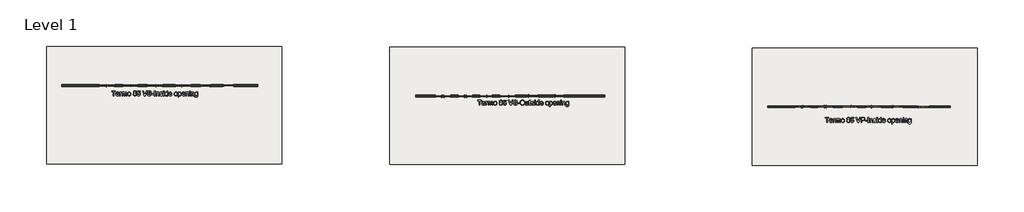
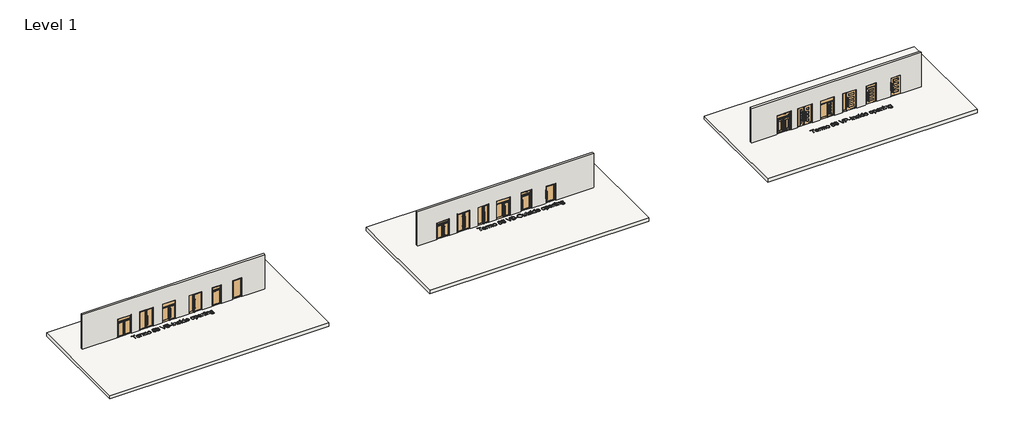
# One storey: 18 doors, 3 proxies, 3 slabs, 3 walls.
"""IFC4 building model written with IfcOpenShell, lengths in millimetres."""

from ifc_helpers import new_model, si_unit, frame, origin, place, context, project, spatial, polyline, outline, extrude, faceted_brep, transform, mapped, element, save
from components import tekst_tekst_b85554be, tekst_tekst_2_988a86f3, tekst_tekst_3_45cd4cb1, door_e021cbc1, door_ad640c1f, door_369b09e6, door_937ee947, door_72423dee, door_cfd425c1, door_9ea68863, door_db977d84, door_2316798d, door_7b687b59, door_7fb9f7a2, door_1983d042, door_8541cdd4, door_6dbeb30b, door_d72a60e1, door_61d21fcc, door_963cac1d, door_2957b7f0, door_72d245ee, door_0c907331, door_779a9718, door_73f70f86

model = new_model("IFC4")

# Units and contexts
model_context = context("Model", 3, world=origin())
ifc_project = project(units=[si_unit("LENGTHUNIT", "METRE", prefix="MILLI")], contexts=[model_context])

# Site, building, storey
site = spatial("IfcSite", under=ifc_project)
building = spatial("IfcBuilding", under=site)
storey = spatial("IfcBuildingStorey", under=building, Name="Level 1", Elevation=0.0)

# Proxies
placement = place(None, origin())
tekst_tekst_shape = tekst_tekst_b85554be(model_context)
element("IfcBuildingElementProxy", 1, Name="tekst : tekst", ObjectType="tekst : tekst", at=placement, inside=storey, context=model_context, shape_type="MappedRepresentation", body=[
    mapped(tekst_tekst_shape, transform((3584.8028535, 9743.7051567, 0.0), x_axis=(1.0, 0.0, 0.0), y_axis=(0.0, 1.0, 0.0), z_axis=(0.0, 0.0, 1.0))),
])
tekst_tekst_2_shape = tekst_tekst_2_988a86f3(model_context)
element("IfcBuildingElementProxy", 2, Name="tekst : tekst 2", ObjectType="tekst : tekst 2", at=placement, inside=storey, context=model_context, shape_type="MappedRepresentation", body=[
    mapped(tekst_tekst_2_shape, transform((40927.726099, 8792.6004717, 0.0), x_axis=(1.0, 0.0, 0.0), y_axis=(0.0, 1.0, 0.0), z_axis=(0.0, 0.0, 1.0))),
])
tekst_tekst_3_shape = tekst_tekst_3_45cd4cb1(model_context)
element("IfcBuildingElementProxy", 3, Name="tekst : tekst 3", ObjectType="tekst : tekst 3", at=placement, inside=storey, context=model_context, shape_type="MappedRepresentation", body=[
    mapped(tekst_tekst_3_shape, transform((76392.8381824, 7027.7348186, 0.0), x_axis=(1.0000000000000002, 0.0, 0.0), y_axis=(0.0, 1.0000000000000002, 0.0), z_axis=(0.0, 0.0, 1.0))),
])

# Doors
door_shape = door_e021cbc1(model_context)
element("IfcDoor", 4, ObjectType="Jednokrilna vrata__ : Jednokrilna vrata__", at=placement, inside=storey, context=model_context, shape_type="MappedRepresentation", body=[
    mapped(door_shape, transform((14120.9288805, 10796.5913339, 0.0), x_axis=(1.0, 0.0, 0.0), y_axis=(0.0, 1.0, 0.0), z_axis=(0.0, 0.0, 1.0))),
])
door_2_shape = door_ad640c1f(model_context)
element("IfcDoor", 5, ObjectType="Jednokrilna s ventusom : Jednokrilna s ventusom", at=placement, inside=storey, context=model_context, shape_type="MappedRepresentation", body=[
    mapped(door_2_shape, transform((11820.9288805, 10796.5913339, 0.0), x_axis=(-1.0, 0.0, 0.0), y_axis=(0.0, -1.0, 0.0), z_axis=(0.0, 0.0, 1.0))),
])
door_3_shape = door_369b09e6(model_context)
element("IfcDoor", 6, ObjectType="Jednokrilna vrata s fiksnim poljem__ : Jednokrilna vrata s fiksnim poljem__", at=placement, inside=storey, context=model_context, shape_type="MappedRepresentation", body=[
    mapped(door_3_shape, transform((9520.9288805, 10796.5913339, 0.0), x_axis=(1.0, 0.0, 0.0), y_axis=(0.0, 1.0, 0.0), z_axis=(0.0, 0.0, 1.0))),
])
door_4_shape = door_937ee947(model_context)
element("IfcDoor", 7, ObjectType="Vrata s nadsvjetlom i fiksnim dijelom : Vrata s nadsvjetlom i fiksnim dijelom", at=placement, inside=storey, context=model_context, shape_type="MappedRepresentation", body=[
    mapped(door_4_shape, transform((6620.9288805, 10796.5913339, 0.0), x_axis=(1.0, 0.0, 0.0), y_axis=(0.0, 1.0, 0.0), z_axis=(0.0, 0.0, 1.0))),
])
door_5_shape = door_72423dee(model_context)
element("IfcDoor", 8, ObjectType="Dvokrilna vrata__ : Dvokrilna vrata__", at=placement, inside=storey, context=model_context, shape_type="MappedRepresentation", body=[
    mapped(door_5_shape, transform((4120.9288805, 10796.5913339, 0.0), x_axis=(-1.0, 0.0, 0.0), y_axis=(0.0, -1.0, 0.0), z_axis=(0.0, 0.0, 1.0))),
])
door_6_shape = door_cfd425c1(model_context)
door_7_shape = door_9ea68863(model_context)
element("IfcDoor", 9, ObjectType="Dvokrilna vrata s ventusom__ : Dvokrilna vrata s ventusom__", at=placement, inside=storey, context=model_context, shape_type="MappedRepresentation", body=[
    mapped(door_6_shape, transform((1720.9288805, 10796.5913339, 0.0), x_axis=(-1.0, 0.0, 0.0), y_axis=(0.0, -1.0, 0.0), z_axis=(0.0, 0.0, 1.0))),
    mapped(door_7_shape, transform((1720.9288805, 10796.5913339, 0.0), x_axis=(-1.0, 0.0, 0.0), y_axis=(0.0, -1.0, 0.0), z_axis=(0.0, 0.0, 1.0))),
])
door_8_shape = door_db977d84(model_context)
element("IfcDoor", 10, ObjectType="Jednokrilna vrata : Jednokrilna vrata", at=placement, inside=storey, context=model_context, shape_type="MappedRepresentation", body=[
    mapped(door_8_shape, transform((85028.945923, 8627.7348186, 0.0), x_axis=(1.0, 0.0, 0.0), y_axis=(0.0, 1.0, 0.0), z_axis=(0.0, 0.0, 1.0))),
])
door_9_shape = door_2316798d(model_context)
element("IfcDoor", 11, ObjectType="Jednokrilna vrata s nadsvijetlom : Jednokrilna vrata s nadsvijetlom", at=placement, inside=storey, context=model_context, shape_type="MappedRepresentation", body=[
    mapped(door_9_shape, transform((82348.945923, 8627.7348186, 0.0), x_axis=(1.0, 0.0, 0.0), y_axis=(0.0, 1.0, 0.0), z_axis=(0.0, 0.0, 1.0))),
])
door_10_shape = door_7b687b59(model_context)
element("IfcDoor", 12, ObjectType="Jednokrilna vrata s fiksnim poljem i nadsvijetlom : Jednokrilna vrata s fiksnim poljem i nadsvijetlom", at=placement, inside=storey, context=model_context, shape_type="MappedRepresentation", body=[
    mapped(door_10_shape, transform((77548.945923, 8627.7348186, 0.0), x_axis=(1.0, 0.0, 0.0), y_axis=(0.0, 1.0, 0.0), z_axis=(0.0, 0.0, 1.0))),
])
door_11_shape = door_7fb9f7a2(model_context)
door_12_shape = door_1983d042(model_context)
element("IfcDoor", 13, ObjectType="Dvokrilna vrata : Dvokrilna vrata", at=placement, inside=storey, context=model_context, shape_type="MappedRepresentation", body=[
    mapped(door_11_shape, transform((75048.945923, 8627.7348186, 0.0), x_axis=(1.0, 0.0, 0.0), y_axis=(0.0, 1.0, 0.0), z_axis=(0.0, 0.0, 1.0))),
    mapped(door_12_shape, transform((75048.945923, 8627.7348186, 0.0), x_axis=(1.0, 0.0, 0.0), y_axis=(0.0, 1.0, 0.0), z_axis=(0.0, 0.0, 1.0))),
])
door_13_shape = door_8541cdd4(model_context)
door_14_shape = door_6dbeb30b(model_context)
element("IfcDoor", 14, ObjectType="Dvokrilna vrata s ventusom : Dvokrilna vrata s ventusom", at=placement, inside=storey, context=model_context, shape_type="MappedRepresentation", body=[
    mapped(door_13_shape, transform((72748.945923, 8627.7348186, 0.0), x_axis=(1.0, 0.0, 0.0), y_axis=(0.0, 1.0, 0.0), z_axis=(0.0, 0.0, 1.0))),
    mapped(door_14_shape, transform((72748.945923, 8627.7348186, 0.0), x_axis=(1.0, 0.0, 0.0), y_axis=(0.0, 1.0, 0.0), z_axis=(0.0, 0.0, 1.0))),
])
door_15_shape = door_d72a60e1(model_context)
element("IfcDoor", 15, ObjectType="Jednokrilna vrata_ : Jednokrilna vrata_", at=placement, inside=storey, context=model_context, shape_type="MappedRepresentation", body=[
    mapped(door_15_shape, transform((47820.9288805, 9708.5752204, 0.0), x_axis=(1.0, 0.0, 0.0), y_axis=(0.0, 1.0, 0.0), z_axis=(0.0, 0.0, 1.0))),
])
door_16_shape = door_61d21fcc(model_context)
element("IfcDoor", 16, ObjectType="Jednokrilna vrata s ventusom : Jednokrilna vrata s ventusom", at=placement, inside=storey, context=model_context, shape_type="MappedRepresentation", body=[
    mapped(door_16_shape, transform((45120.9288805, 9708.5752204, 0.0), x_axis=(1.0, 0.0, 0.0), y_axis=(0.0, 1.0, 0.0), z_axis=(0.0, 0.0, 1.0))),
])
door_17_shape = door_963cac1d(model_context)
element("IfcDoor", 17, ObjectType="jednokrilna vrata s fixnim poljem i nadsvijetlom : jednokrilna vrata s fixnim poljem i nadsvijetlom", at=placement, inside=storey, context=model_context, shape_type="MappedRepresentation", body=[
    mapped(door_17_shape, transform((42620.9288805, 9708.5752204, 0.0), x_axis=(1.0, 0.0, 0.0), y_axis=(0.0, 1.0, 0.0), z_axis=(0.0, 0.0, 1.0))),
])
door_18_shape = door_2957b7f0(model_context)
element("IfcDoor", 18, ObjectType="Jednokrilna vrata s fiksnim poljem_ : Jednokrilna vrata s fiksnim poljem_", at=placement, inside=storey, context=model_context, shape_type="MappedRepresentation", body=[
    mapped(door_18_shape, transform((40420.9288805, 9708.5752204, 0.0), x_axis=(1.0, 0.0, 0.0), y_axis=(0.0, 1.0, 0.0), z_axis=(0.0, 0.0, 1.0))),
])
door_19_shape = door_72d245ee(model_context)
element("IfcDoor", 19, ObjectType="Dvokrilna vrata_ : Dvokrilna vrata_", at=placement, inside=storey, context=model_context, shape_type="MappedRepresentation", body=[
    mapped(door_19_shape, transform((38320.9288805, 9708.5752204, 0.0), x_axis=(-1.0, 0.0, 0.0), y_axis=(0.0, -1.0, 0.0), z_axis=(0.0, 0.0, 1.0))),
])
door_20_shape = door_0c907331(model_context)
door_21_shape = door_779a9718(model_context)
element("IfcDoor", 20, ObjectType="Dvokrilna vrata s ventusom_ : Dvokrilna vrata s ventusom_", at=placement, inside=storey, context=model_context, shape_type="MappedRepresentation", body=[
    mapped(door_20_shape, transform((36020.9288805, 9708.5752204, 0.0), x_axis=(-1.0, 0.0, 0.0), y_axis=(0.0, -1.0, 0.0), z_axis=(0.0, 0.0, 1.0))),
    mapped(door_21_shape, transform((36020.9288805, 9708.5752204, 0.0), x_axis=(-1.0, 0.0, 0.0), y_axis=(0.0, -1.0, 0.0), z_axis=(0.0, 0.0, 1.0))),
])
door_22_shape = door_73f70f86(model_context)
element("IfcDoor", 21, ObjectType="Jednokrilna vrata s fiksnim poljem : staklo", at=placement, inside=storey, context=model_context, shape_type="MappedRepresentation", body=[
    mapped(door_22_shape, transform((79948.945923, 8627.7348186, 0.0), x_axis=(1.0, 0.0, 0.0), y_axis=(0.0, 1.0, 0.0), z_axis=(0.0, 0.0, 1.0))),
])

# Slabs
element("IfcSlab", 22, ObjectType="Generic Floor - 400mm", at=placement, inside=storey, context=model_context, shape_type="SweptSolid", body=[
    extrude(outline(polyline([(54565.8940653, 14708.5752204), (54565.8940653, 2708.5752204), (30565.8940653, 2708.5752204), (30565.8940653, 14708.5752204), (54565.8940653, 14708.5752204)])), frame((0.0, 0.0, -400.0), z_axis=(0.0, 0.0, 1.0), x_axis=(1.0, 0.0, 0.0)), (0.0, 0.0, 1.0), 400.0),
])
element("IfcSlab", 23, ObjectType="Generic Floor - 400mm", at=placement, inside=storey, context=model_context, shape_type="SweptSolid", body=[
    extrude(outline(polyline([(90565.8940653, 14627.7348186), (90565.8940653, 2627.7348186), (67565.8940653, 2627.7348186), (67565.8940653, 14627.7348186), (90565.8940653, 14627.7348186)])), frame((0.0, 0.0, -400.0), z_axis=(0.0, 0.0, 1.0), x_axis=(1.0, 0.0, 0.0)), (0.0, 0.0, 1.0), 400.0),
])
element("IfcSlab", 24, ObjectType="Generic Floor - 400mm", at=placement, inside=storey, context=model_context, shape_type="SweptSolid", body=[
    extrude(outline(polyline([(19565.8940653, 14796.5913339), (19565.8940653, 2796.5913339), (-4434.1059347, 2796.5913339), (-4434.1059347, 14796.5913339), (19565.8940653, 14796.5913339)])), frame((0.0, 0.0, -400.0), z_axis=(0.0, 0.0, 1.0), x_axis=(1.0, 0.0, 0.0)), (0.0, 0.0, 1.0), 400.0),
])

# Walls
element("IfcWall", 25, ObjectType="Generic - 200mm", at=placement, inside=storey, context=model_context, shape_type="Brep", body=[
    faceted_brep([(33220.9288805, 9808.5752204, 0.0), (33220.9288805, 9808.5752204, 4000.0), (52520.9288805, 9808.5752204, 4000.0), (52520.9288805, 9808.5752204, 0.0), (48330.9288805, 9808.5752204, 0.0), (48330.9288805, 9808.5752204, 1960.0), (47310.9288805, 9808.5752204, 1960.0), (47310.9288805, 9808.5752204, 0.0), (45680.9288805, 9808.5752204, 0.0), (45680.9288805, 9808.5752204, 2160.0), (44560.9288805, 9808.5752204, 2160.0), (44560.9288805, 9808.5752204, 0.0), (43420.9288805, 9808.5752204, 0.0), (43420.9288805, 9808.5752204, 2200.0), (41820.9288805, 9808.5752204, 2200.0), (41820.9288805, 9808.5752204, 0.0), (41070.9288805, 9808.5752204, 0.0), (41070.9288805, 9808.5752204, 2200.0), (39770.9288805, 9808.5752204, 2200.0), (39770.9288805, 9808.5752204, 0.0), (39070.9288805, 9808.5752204, 0.0), (39070.9288805, 9808.5752204, 2200.0), (37570.9288805, 9808.5752204, 2200.0), (37570.9288805, 9808.5752204, 0.0), (36820.9288805, 9808.5752204, 0.0), (36820.9288805, 9808.5752204, 2000.0), (35220.9288805, 9808.5752204, 2000.0), (35220.9288805, 9808.5752204, 0.0), (33220.9288805, 9608.5752204, 4000.0), (33220.9288805, 9608.5752204, 0.0), (35260.9288805, 9608.5752204, 0.0), (35260.9288805, 9608.5752204, 1960.0), (36780.9288805, 9608.5752204, 1960.0), (36780.9288805, 9608.5752204, 0.0), (37610.9288805, 9608.5752204, 0.0), (37610.9288805, 9608.5752204, 2160.0), (39030.9288805, 9608.5752204, 2160.0), (39030.9288805, 9608.5752204, 0.0), (39810.9288805, 9608.5752204, 0.0), (39810.9288805, 9608.5752204, 2160.0), (41030.9288805, 9608.5752204, 2160.0), (41030.9288805, 9608.5752204, 0.0), (41860.9288805, 9608.5752204, 0.0), (41860.9288805, 9608.5752204, 2160.0), (43380.9288805, 9608.5752204, 2160.0), (43380.9288805, 9608.5752204, 0.0), (44520.9288805, 9608.5752204, 0.0), (44520.9288805, 9608.5752204, 2200.0), (45720.9288805, 9608.5752204, 2200.0), (45720.9288805, 9608.5752204, 0.0), (47270.9288805, 9608.5752204, 0.0), (47270.9288805, 9608.5752204, 2000.0), (48370.9288805, 9608.5752204, 2000.0), (48370.9288805, 9608.5752204, 0.0), (52520.9288805, 9608.5752204, 0.0), (52520.9288805, 9608.5752204, 4000.0), (35220.9288805, 9648.5752204, 0.0), (35260.9288805, 9648.5752204, 0.0), (48370.9288805, 9768.5752204, 0.0), (48330.9288805, 9768.5752204, 0.0), (47310.9288805, 9768.5752204, 0.0), (47270.9288805, 9768.5752204, 0.0), (45720.9288805, 9768.5752204, 0.0), (45680.9288805, 9768.5752204, 0.0), (44560.9288805, 9768.5752204, 0.0), (44520.9288805, 9768.5752204, 0.0), (43380.9288805, 9648.5752204, 0.0), (43420.9288805, 9648.5752204, 0.0), (41820.9288805, 9648.5752204, 0.0), (41860.9288805, 9648.5752204, 0.0), (41030.9288805, 9648.5752204, 0.0), (41070.9288805, 9648.5752204, 0.0), (39770.9288805, 9648.5752204, 0.0), (39810.9288805, 9648.5752204, 0.0), (39030.9288805, 9648.5752204, 0.0), (39070.9288805, 9648.5752204, 0.0), (37570.9288805, 9648.5752204, 0.0), (37610.9288805, 9648.5752204, 0.0), (36780.9288805, 9648.5752204, 0.0), (36820.9288805, 9648.5752204, 0.0), (47270.9288805, 9768.5752204, 2000.0), (47310.9288805, 9768.5752204, 1960.0), (48330.9288805, 9768.5752204, 1960.0), (48370.9288805, 9768.5752204, 2000.0), (44520.9288805, 9768.5752204, 2200.0), (44560.9288805, 9768.5752204, 2160.0), (45680.9288805, 9768.5752204, 2160.0), (45720.9288805, 9768.5752204, 2200.0), (41820.9288805, 9648.5752204, 2200.0), (43420.9288805, 9648.5752204, 2200.0), (43380.9288805, 9648.5752204, 2160.0), (41860.9288805, 9648.5752204, 2160.0), (39770.9288805, 9648.5752204, 2200.0), (41070.9288805, 9648.5752204, 2200.0), (41030.9288805, 9648.5752204, 2160.0), (39810.9288805, 9648.5752204, 2160.0), (39070.9288805, 9648.5752204, 2200.0), (39030.9288805, 9648.5752204, 2160.0), (37610.9288805, 9648.5752204, 2160.0), (37570.9288805, 9648.5752204, 2200.0), (36820.9288805, 9648.5752204, 2000.0), (36780.9288805, 9648.5752204, 1960.0), (35260.9288805, 9648.5752204, 1960.0), (35220.9288805, 9648.5752204, 2000.0)], [[[0, 1, 2, 3, 4, 5, 6, 7, 8, 9, 10, 11, 12, 13, 14, 15, 16, 17, 18, 19, 20, 21, 22, 23, 24, 25, 26, 27]], [[28, 29, 30, 31, 32, 33, 34, 35, 36, 37, 38, 39, 40, 41, 42, 43, 44, 45, 46, 47, 48, 49, 50, 51, 52, 53, 54, 55]], [[29, 0, 27, 56, 57, 30]], [[3, 54, 53, 58, 59, 4]], [[60, 61, 50, 49, 62, 63, 8, 7]], [[64, 65, 46, 45, 66, 67, 12, 11]], [[68, 69, 42, 41, 70, 71, 16, 15]], [[72, 73, 38, 37, 74, 75, 20, 19]], [[76, 77, 34, 33, 78, 79, 24, 23]], [[1, 0, 29, 28]], [[2, 1, 28, 55]], [[3, 2, 55, 54]], [[80, 61, 60, 81, 82, 59, 58, 83]], [[61, 80, 51, 50]], [[83, 58, 53, 52]], [[80, 83, 52, 51]], [[81, 60, 7, 6]], [[59, 82, 5, 4]], [[82, 81, 6, 5]], [[84, 65, 64, 85, 86, 63, 62, 87]], [[65, 84, 47, 46]], [[87, 62, 49, 48]], [[84, 87, 48, 47]], [[85, 64, 11, 10]], [[63, 86, 9, 8]], [[86, 85, 10, 9]], [[68, 88, 89, 67, 66, 90, 91, 69]], [[88, 68, 15, 14]], [[67, 89, 13, 12]], [[89, 88, 14, 13]], [[69, 91, 43, 42]], [[90, 66, 45, 44]], [[91, 90, 44, 43]], [[72, 92, 93, 71, 70, 94, 95, 73]], [[92, 72, 19, 18]], [[71, 93, 17, 16]], [[93, 92, 18, 17]], [[73, 95, 39, 38]], [[94, 70, 41, 40]], [[95, 94, 40, 39]], [[96, 75, 74, 97, 98, 77, 76, 99]], [[75, 96, 21, 20]], [[99, 76, 23, 22]], [[96, 99, 22, 21]], [[97, 74, 37, 36]], [[77, 98, 35, 34]], [[98, 97, 36, 35]], [[100, 79, 78, 101, 102, 57, 56, 103]], [[79, 100, 25, 24]], [[103, 56, 27, 26]], [[100, 103, 26, 25]], [[101, 78, 33, 32]], [[57, 102, 31, 30]], [[102, 101, 32, 31]]]),
])
element("IfcWall", 26, ObjectType="Generic - 200mm", at=placement, inside=storey, context=model_context, shape_type="Brep", body=[
    faceted_brep([(69188.945923, 8727.7348186, 0.0), (69188.945923, 8727.7348186, 4000.0), (87788.945923, 8727.7348186, 4000.0), (87788.945923, 8727.7348186, 0.0), (85628.945923, 8727.7348186, 0.0), (85628.945923, 8727.7348186, 2200.0), (84428.945923, 8727.7348186, 2200.0), (84428.945923, 8727.7348186, 0.0), (82908.945923, 8727.7348186, 0.0), (82908.945923, 8727.7348186, 2160.0), (81788.945923, 8727.7348186, 2160.0), (81788.945923, 8727.7348186, 0.0), (80708.945923, 8727.7348186, 0.0), (80708.945923, 8727.7348186, 2160.0), (79188.945923, 8727.7348186, 2160.0), (79188.945923, 8727.7348186, 0.0), (78308.945923, 8727.7348186, 0.0), (78308.945923, 8727.7348186, 2160.0), (76788.945923, 8727.7348186, 2160.0), (76788.945923, 8727.7348186, 0.0), (75808.945923, 8727.7348186, 0.0), (75808.945923, 8727.7348186, 2160.0), (74288.945923, 8727.7348186, 2160.0), (74288.945923, 8727.7348186, 0.0), (73508.945923, 8727.7348186, 0.0), (73508.945923, 8727.7348186, 2160.0), (71988.945923, 8727.7348186, 2160.0), (71988.945923, 8727.7348186, 0.0), (69188.945923, 8527.7348186, 4000.0), (69188.945923, 8527.7348186, 0.0), (71948.945923, 8527.7348186, 0.0), (71948.945923, 8527.7348186, 2200.0), (73548.945923, 8527.7348186, 2200.0), (73548.945923, 8527.7348186, 0.0), (74248.945923, 8527.7348186, 0.0), (74248.945923, 8527.7348186, 2200.0), (75848.945923, 8527.7348186, 2200.0), (75848.945923, 8527.7348186, 0.0), (76748.945923, 8527.7348186, 0.0), (76748.945923, 8527.7348186, 2200.0), (78348.945923, 8527.7348186, 2200.0), (78348.945923, 8527.7348186, 0.0), (79148.945923, 8527.7348186, 0.0), (79148.945923, 8527.7348186, 2200.0), (80748.945923, 8527.7348186, 2200.0), (80748.945923, 8527.7348186, 0.0), (81748.945923, 8527.7348186, 0.0), (81748.945923, 8527.7348186, 2200.0), (82948.945923, 8527.7348186, 2200.0), (82948.945923, 8527.7348186, 0.0), (84468.945923, 8527.7348186, 0.0), (84468.945923, 8527.7348186, 2160.0), (85588.945923, 8527.7348186, 2160.0), (85588.945923, 8527.7348186, 0.0), (87788.945923, 8527.7348186, 0.0), (87788.945923, 8527.7348186, 4000.0), (71988.945923, 8687.7348186, 0.0), (71948.945923, 8687.7348186, 0.0), (85588.945923, 8564.2348186, 0.0), (85628.945923, 8564.2348186, 0.0), (81788.945923, 8691.2348186, 0.0), (81748.945923, 8691.2348186, 0.0), (80748.945923, 8691.2348186, 0.0), (80708.945923, 8691.2348186, 0.0), (82948.945923, 8691.2348186, 0.0), (82908.945923, 8691.2348186, 0.0), (84428.945923, 8564.2348186, 0.0), (84468.945923, 8564.2348186, 0.0), (76788.945923, 8691.2348186, 0.0), (76748.945923, 8691.2348186, 0.0), (75848.945923, 8691.2348186, 0.0), (75808.945923, 8691.2348186, 0.0), (78348.945923, 8691.2348186, 0.0), (78308.945923, 8691.2348186, 0.0), (79188.945923, 8691.2348186, 0.0), (79148.945923, 8691.2348186, 0.0), (74288.945923, 8691.2348186, 0.0), (74248.945923, 8691.2348186, 0.0), (73548.945923, 8687.7348186, 0.0), (73508.945923, 8687.7348186, 0.0), (81748.945923, 8691.2348186, 2200.0), (81788.945923, 8691.2348186, 2160.0), (82908.945923, 8691.2348186, 2160.0), (82948.945923, 8691.2348186, 2200.0), (84428.945923, 8564.2348186, 2200.0), (85628.945923, 8564.2348186, 2200.0), (85588.945923, 8564.2348186, 2160.0), (84468.945923, 8564.2348186, 2160.0), (80748.945923, 8691.2348186, 2200.0), (76748.945923, 8691.2348186, 2200.0), (76788.945923, 8691.2348186, 2160.0), (78308.945923, 8691.2348186, 2160.0), (78348.945923, 8691.2348186, 2200.0), (74248.945923, 8691.2348186, 2200.0), (74288.945923, 8691.2348186, 2160.0), (75808.945923, 8691.2348186, 2160.0), (75848.945923, 8691.2348186, 2200.0), (71948.945923, 8687.7348186, 2200.0), (71988.945923, 8687.7348186, 2160.0), (73508.945923, 8687.7348186, 2160.0), (73548.945923, 8687.7348186, 2200.0), (79148.945923, 8691.2348186, 2200.0), (79188.945923, 8691.2348186, 2160.0), (80708.945923, 8691.2348186, 2160.0)], [[[0, 1, 2, 3, 4, 5, 6, 7, 8, 9, 10, 11, 12, 13, 14, 15, 16, 17, 18, 19, 20, 21, 22, 23, 24, 25, 26, 27]], [[28, 29, 30, 31, 32, 33, 34, 35, 36, 37, 38, 39, 40, 41, 42, 43, 44, 45, 46, 47, 48, 49, 50, 51, 52, 53, 54, 55]], [[29, 0, 27, 56, 57, 30]], [[3, 54, 53, 58, 59, 4]], [[60, 61, 46, 45, 62, 63, 12, 11]], [[64, 65, 8, 7, 66, 67, 50, 49]], [[68, 69, 38, 37, 70, 71, 20, 19]], [[72, 73, 16, 15, 74, 75, 42, 41]], [[76, 77, 34, 33, 78, 79, 24, 23]], [[1, 0, 29, 28]], [[2, 1, 28, 55]], [[3, 2, 55, 54]], [[80, 61, 60, 81, 82, 65, 64, 83]], [[61, 80, 47, 46]], [[83, 64, 49, 48]], [[80, 83, 48, 47]], [[81, 60, 11, 10]], [[65, 82, 9, 8]], [[82, 81, 10, 9]], [[66, 84, 85, 59, 58, 86, 87, 67]], [[84, 66, 7, 6]], [[59, 85, 5, 4]], [[85, 84, 6, 5]], [[67, 87, 51, 50]], [[86, 58, 53, 52]], [[87, 86, 52, 51]], [[44, 88, 62, 45]], [[89, 69, 68, 90, 91, 73, 72, 92]], [[69, 89, 39, 38]], [[92, 72, 41, 40]], [[89, 92, 40, 39]], [[90, 68, 19, 18]], [[73, 91, 17, 16]], [[91, 90, 18, 17]], [[93, 77, 76, 94, 95, 71, 70, 96]], [[77, 93, 35, 34]], [[96, 70, 37, 36]], [[93, 96, 36, 35]], [[94, 76, 23, 22]], [[71, 95, 21, 20]], [[95, 94, 22, 21]], [[97, 57, 56, 98, 99, 79, 78, 100]], [[57, 97, 31, 30]], [[100, 78, 33, 32]], [[97, 100, 32, 31]], [[98, 56, 27, 26]], [[79, 99, 25, 24]], [[99, 98, 26, 25]], [[88, 101, 75, 74, 102, 103, 63, 62]], [[101, 43, 42, 75]], [[88, 44, 43, 101]], [[102, 74, 15, 14]], [[63, 103, 13, 12]], [[103, 102, 14, 13]]]),
])
element("IfcWall", 27, ObjectType="Generic - 200mm", at=placement, inside=storey, context=model_context, shape_type="Brep", body=[
    faceted_brep([(-2879.0711195, 10896.5913339, 0.0), (-2879.0711195, 10896.5913339, 4000.0), (17120.9288805, 10896.5913339, 4000.0), (17120.9288805, 10896.5913339, 0.0), (14630.9288805, 10896.5913339, 0.0), (14630.9288805, 10896.5913339, 2160.0), (13610.9288805, 10896.5913339, 2160.0), (13610.9288805, 10896.5913339, 0.0), (12370.9288805, 10896.5913339, 0.0), (12370.9288805, 10896.5913339, 2200.0), (11270.9288805, 10896.5913339, 2200.0), (11270.9288805, 10896.5913339, 0.0), (10320.9288805, 10896.5913339, 0.0), (10320.9288805, 10896.5913339, 2200.0), (8720.9288805, 10896.5913339, 2200.0), (8720.9288805, 10896.5913339, 0.0), (7420.9288805, 10896.5913339, 0.0), (7420.9288805, 10896.5913339, 2200.0), (5820.9288805, 10896.5913339, 2200.0), (5820.9288805, 10896.5913339, 0.0), (4920.9288805, 10896.5913339, 0.0), (4920.9288805, 10896.5913339, 2200.0), (3320.9288805, 10896.5913339, 2200.0), (3320.9288805, 10896.5913339, 0.0), (2520.9288805, 10896.5913339, 0.0), (2520.9288805, 10896.5913339, 2200.0), (920.9288805, 10896.5913339, 2200.0), (920.9288805, 10896.5913339, 0.0), (-2879.0711195, 10696.5913339, 4000.0), (-2879.0711195, 10696.5913339, 0.0), (960.9288805, 10696.5913339, 0.0), (960.9288805, 10696.5913339, 2160.0), (2480.9288805, 10696.5913339, 2160.0), (2480.9288805, 10696.5913339, 0.0), (3360.9288805, 10696.5913339, 0.0), (3360.9288805, 10696.5913339, 2160.0), (4880.9288805, 10696.5913339, 2160.0), (4880.9288805, 10696.5913339, 0.0), (5860.9288805, 10696.5913339, 0.0), (5860.9288805, 10696.5913339, 2160.0), (7380.9288805, 10696.5913339, 2160.0), (7380.9288805, 10696.5913339, 0.0), (8760.9288805, 10696.5913339, 0.0), (8760.9288805, 10696.5913339, 2160.0), (10280.9288805, 10696.5913339, 2160.0), (10280.9288805, 10696.5913339, 0.0), (11310.9288805, 10696.5913339, 0.0), (11310.9288805, 10696.5913339, 2160.0), (12330.9288805, 10696.5913339, 2160.0), (12330.9288805, 10696.5913339, 0.0), (13570.9288805, 10696.5913339, 0.0), (13570.9288805, 10696.5913339, 2200.0), (14670.9288805, 10696.5913339, 2200.0), (14670.9288805, 10696.5913339, 0.0), (17120.9288805, 10696.5913339, 0.0), (17120.9288805, 10696.5913339, 4000.0), (920.9288805, 10736.5913339, 0.0), (960.9288805, 10736.5913339, 0.0), (14670.9288805, 10856.5913339, 0.0), (14630.9288805, 10856.5913339, 0.0), (13610.9288805, 10856.5913339, 0.0), (13570.9288805, 10856.5913339, 0.0), (12330.9288805, 10736.5913339, 0.0), (12370.9288805, 10736.5913339, 0.0), (7380.9288805, 10736.5913339, 0.0), (7420.9288805, 10736.5913339, 0.0), (8720.9288805, 10736.5913339, 0.0), (8760.9288805, 10736.5913339, 0.0), (5820.9288805, 10736.5913339, 0.0), (5860.9288805, 10736.5913339, 0.0), (4880.9288805, 10736.5913339, 0.0), (4920.9288805, 10736.5913339, 0.0), (10280.9288805, 10736.5913339, 0.0), (10320.9288805, 10736.5913339, 0.0), (11270.9288805, 10736.5913339, 0.0), (11310.9288805, 10736.5913339, 0.0), (3320.9288805, 10736.5913339, 0.0), (3360.9288805, 10736.5913339, 0.0), (2480.9288805, 10736.5913339, 0.0), (2520.9288805, 10736.5913339, 0.0), (13570.9288805, 10856.5913339, 2200.0), (13610.9288805, 10856.5913339, 2160.0), (14630.9288805, 10856.5913339, 2160.0), (14670.9288805, 10856.5913339, 2200.0), (5820.9288805, 10736.5913339, 2200.0), (7420.9288805, 10736.5913339, 2200.0), (7380.9288805, 10736.5913339, 2160.0), (5860.9288805, 10736.5913339, 2160.0), (8720.9288805, 10736.5913339, 2200.0), (10320.9288805, 10736.5913339, 2200.0), (10280.9288805, 10736.5913339, 2160.0), (8760.9288805, 10736.5913339, 2160.0), (12370.9288805, 10736.5913339, 2200.0), (12330.9288805, 10736.5913339, 2160.0), (11310.9288805, 10736.5913339, 2160.0), (11270.9288805, 10736.5913339, 2200.0), (4920.9288805, 10736.5913339, 2200.0), (4880.9288805, 10736.5913339, 2160.0), (3360.9288805, 10736.5913339, 2160.0), (3320.9288805, 10736.5913339, 2200.0), (2520.9288805, 10736.5913339, 2200.0), (2480.9288805, 10736.5913339, 2160.0), (960.9288805, 10736.5913339, 2160.0), (920.9288805, 10736.5913339, 2200.0)], [[[0, 1, 2, 3, 4, 5, 6, 7, 8, 9, 10, 11, 12, 13, 14, 15, 16, 17, 18, 19, 20, 21, 22, 23, 24, 25, 26, 27]], [[28, 29, 30, 31, 32, 33, 34, 35, 36, 37, 38, 39, 40, 41, 42, 43, 44, 45, 46, 47, 48, 49, 50, 51, 52, 53, 54, 55]], [[29, 0, 27, 56, 57, 30]], [[3, 54, 53, 58, 59, 4]], [[60, 61, 50, 49, 62, 63, 8, 7]], [[64, 65, 16, 15, 66, 67, 42, 41]], [[68, 69, 38, 37, 70, 71, 20, 19]], [[72, 73, 12, 11, 74, 75, 46, 45]], [[76, 77, 34, 33, 78, 79, 24, 23]], [[1, 0, 29, 28]], [[2, 1, 28, 55]], [[3, 2, 55, 54]], [[80, 61, 60, 81, 82, 59, 58, 83]], [[61, 80, 51, 50]], [[83, 58, 53, 52]], [[80, 83, 52, 51]], [[81, 60, 7, 6]], [[59, 82, 5, 4]], [[82, 81, 6, 5]], [[68, 84, 85, 65, 64, 86, 87, 69]], [[84, 68, 19, 18]], [[65, 85, 17, 16]], [[85, 84, 18, 17]], [[69, 87, 39, 38]], [[86, 64, 41, 40]], [[87, 86, 40, 39]], [[66, 88, 89, 73, 72, 90, 91, 67]], [[88, 66, 15, 14]], [[73, 89, 13, 12]], [[89, 88, 14, 13]], [[67, 91, 43, 42]], [[90, 72, 45, 44]], [[91, 90, 44, 43]], [[92, 63, 62, 93, 94, 75, 74, 95]], [[63, 92, 9, 8]], [[95, 74, 11, 10]], [[92, 95, 10, 9]], [[93, 62, 49, 48]], [[75, 94, 47, 46]], [[94, 93, 48, 47]], [[96, 71, 70, 97, 98, 77, 76, 99]], [[71, 96, 21, 20]], [[99, 76, 23, 22]], [[96, 99, 22, 21]], [[97, 70, 37, 36]], [[77, 98, 35, 34]], [[98, 97, 36, 35]], [[100, 79, 78, 101, 102, 57, 56, 103]], [[79, 100, 25, 24]], [[103, 56, 27, 26]], [[100, 103, 26, 25]], [[101, 78, 33, 32]], [[57, 102, 31, 30]], [[102, 101, 32, 31]]]),
])

save(model, "model.ifc")
